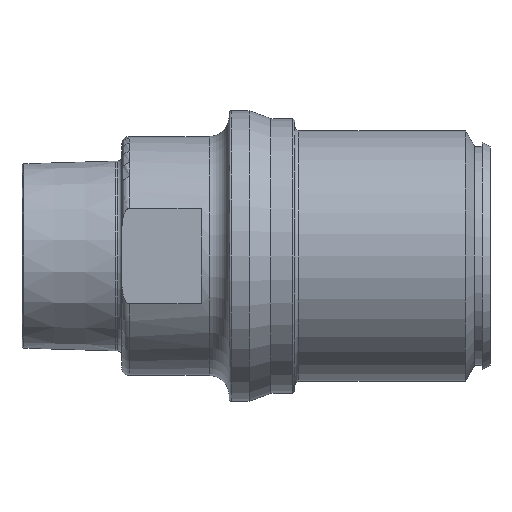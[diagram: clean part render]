
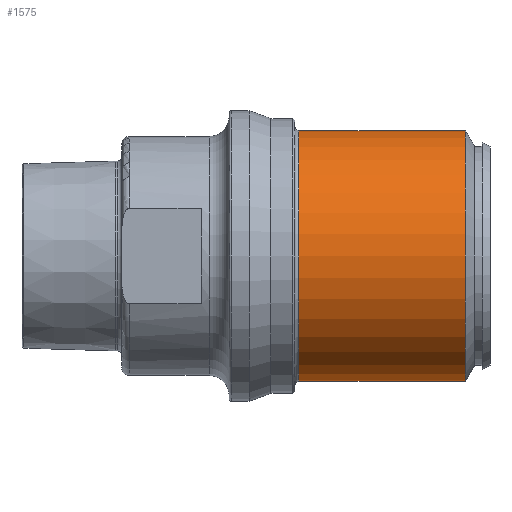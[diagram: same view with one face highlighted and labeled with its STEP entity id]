
A CAD part, front view. The second image highlights one B-rep face of the part: STEP entity #1575.
In plain terms, the highlighted cylindrical face has radius 31.5 mm (diameter 63 mm), a partial arc.
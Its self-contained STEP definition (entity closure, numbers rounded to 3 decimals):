
#26 = EDGE_CURVE ( 'NONE', #1076, #1017, #112, .T. ) ;
#106 = AXIS2_PLACEMENT_3D ( 'NONE', #1166, #1167, #1168 ) ;
#112 = CIRCLE ( 'NONE', #106, 31.5 ) ;
#159 = EDGE_LOOP ( 'NONE', ( #1662, #1663, #1664, #1665 ) ) ;
#314 = LINE ( 'NONE', #321, #913 ) ;
#321 = CARTESIAN_POINT ( 'NONE',  ( 1.309, 0., -31.5 ) ) ;
#325 = LINE ( 'NONE', #330, #915 ) ;
#329 = DIRECTION ( 'NONE',  ( 1., 0., 0. ) ) ;
#330 = CARTESIAN_POINT ( 'NONE',  ( 1.309, 0., 31.5 ) ) ;
#331 = DIRECTION ( 'NONE',  ( 1., 0., 0. ) ) ;
#335 = CARTESIAN_POINT ( 'NONE',  ( -48., 0., 0. ) ) ;
#336 = DIRECTION ( 'NONE',  ( 1., 0., 0. ) ) ;
#337 = DIRECTION ( 'NONE',  ( 0., 0., -1. ) ) ;
#397 = DIRECTION ( 'NONE',  ( 1., 0., 0. ) ) ;
#403 = FACE_OUTER_BOUND ( 'NONE', #159, .T. ) ;
#404 = CARTESIAN_POINT ( 'NONE',  ( 1.309, 0., 0. ) ) ;
#406 = CYLINDRICAL_SURFACE ( 'NONE', #834, 31.5 ) ;
#407 = DIRECTION ( 'NONE',  ( 0., 0., -1. ) ) ;
#834 = AXIS2_PLACEMENT_3D ( 'NONE', #404, #397, #407 ) ;
#892 = AXIS2_PLACEMENT_3D ( 'NONE', #335, #336, #337 ) ;
#908 = CIRCLE ( 'NONE', #892, 31.5 ) ;
#913 = VECTOR ( 'NONE', #329, 1000. ) ;
#915 = VECTOR ( 'NONE', #331, 1000. ) ;
#1017 = VERTEX_POINT ( 'NONE', #1445 ) ;
#1035 = VERTEX_POINT ( 'NONE', #1459 ) ;
#1076 = VERTEX_POINT ( 'NONE', #1500 ) ;
#1077 = VERTEX_POINT ( 'NONE', #1501 ) ;
#1166 = CARTESIAN_POINT ( 'NONE',  ( -6.194, 0., 0. ) ) ;
#1167 = DIRECTION ( 'NONE',  ( 1., 0., 0. ) ) ;
#1168 = DIRECTION ( 'NONE',  ( 0., 0., 1. ) ) ;
#1293 = EDGE_CURVE ( 'NONE', #1035, #1017, #314, .T. ) ;
#1294 = EDGE_CURVE ( 'NONE', #1077, #1076, #325, .T. ) ;
#1296 = EDGE_CURVE ( 'NONE', #1077, #1035, #908, .T. ) ;
#1445 = CARTESIAN_POINT ( 'NONE',  ( -6.194, 0., -31.5 ) ) ;
#1459 = CARTESIAN_POINT ( 'NONE',  ( -48., 0., -31.5 ) ) ;
#1500 = CARTESIAN_POINT ( 'NONE',  ( -6.194, 0., 31.5 ) ) ;
#1501 = CARTESIAN_POINT ( 'NONE',  ( -48., 0., 31.5 ) ) ;
#1575 = ADVANCED_FACE ( 'NONE', ( #403 ), #406, .T. ) ;
#1662 = ORIENTED_EDGE ( 'NONE', *, *, #1294, .F. ) ;
#1663 = ORIENTED_EDGE ( 'NONE', *, *, #1296, .T. ) ;
#1664 = ORIENTED_EDGE ( 'NONE', *, *, #1293, .T. ) ;
#1665 = ORIENTED_EDGE ( 'NONE', *, *, #26, .F. ) ;
